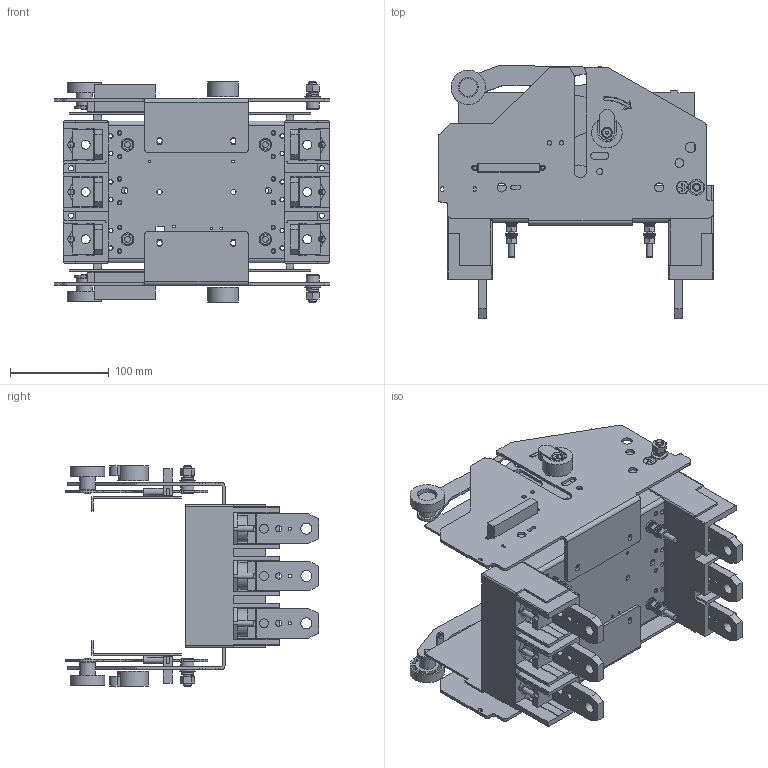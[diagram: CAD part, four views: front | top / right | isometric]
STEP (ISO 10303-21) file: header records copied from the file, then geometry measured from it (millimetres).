
FILE_DESCRIPTION(/* description */ (''),/* implementation_level */ '2;1');
FILE_NAME(/* name */ 'M1-400抽屉式.stp',/* time_stamp */ '2025-02-21T14:21:57+08:00',/* author */ (''),/* organization */ (''),/* preprocessor_version */ 'ST-DEVELOPER v16',/* originating_system */ 'SIEMENS PLM Software NX 10.0',/* authorisation */ '');
FILE_SCHEMA (('AUTOMOTIVE_DESIGN { 1 0 10303 214 3 1 1 1 }'));
Products named in the file (1): midi3CBC86F80alb
Bounding box: 279.1 x 257.08 x 224 mm (x, y, z)
Volume: 1528612.3 mm3; surface area: 665855.8 mm2
Topology: 59 solids, 77 shells, 2358 faces, 6181 edges, 4108 vertices
Faces by surface type: plane 1460, cylinder 692, bspline 88, torus 42, extrusion 42, cone 24, sphere 10
Full cylindrical faces by diameter (mm): 2 x16, 2.5 x6, 3 x2, 3.2 x16, 3.4 x6, 3.5 x4, 4.2 x12, 4.3 x20, 4.4 x16, 4.6 x24, 5 x12, 5.3 x10, 5.9 x2, 6 x22, 6.3 x8, 6.4 x2, 6.5 x20, 6.8 x2, 8 x4, 8.1 x2, 8.3 x2, 8.5 x2, 9 x16, 9.2 x4, 10 x2, 10.3 x2, 10.7 x2, 11 x4, 11.1 x6, 12 x4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
Entity records: 77179 total; most frequent: CARTESIAN_POINT 19062, DIRECTION 11585, ORIENTED_EDGE 11530, EDGE_CURVE 5765, VERTEX_POINT 4020, VECTOR 3927, LINE 3885, AXIS2_PLACEMENT_3D 3829
